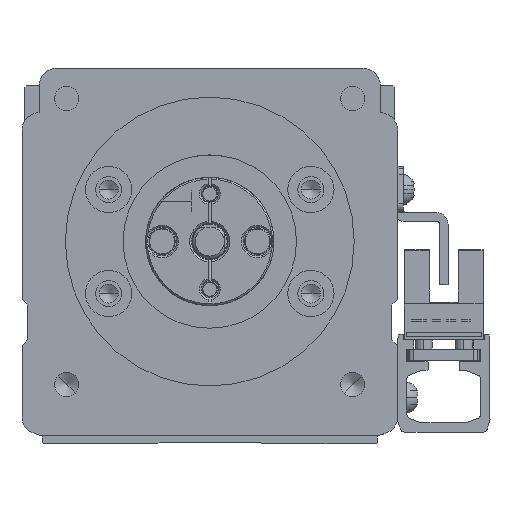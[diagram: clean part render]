
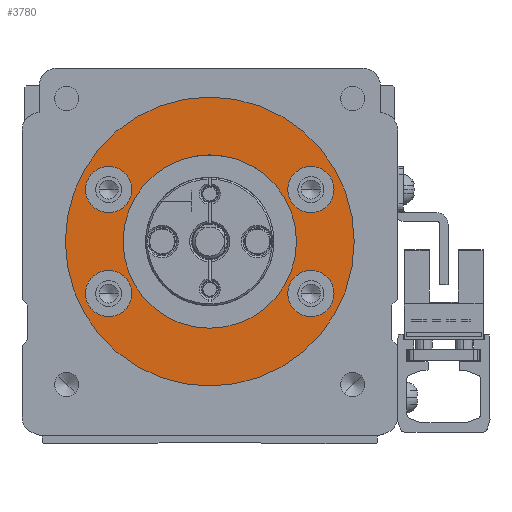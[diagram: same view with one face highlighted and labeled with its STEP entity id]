
A CAD part, front view. The second image highlights one B-rep face of the part: STEP entity #3780.
In plain terms, the highlighted planar face has unit normal (0, -1, 0).
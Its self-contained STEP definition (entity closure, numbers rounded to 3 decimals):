
#3780=ADVANCED_FACE('',(#9835,#9836,#9837,#9838,#9839,#9840),#9841,.F.);
#9835=FACE_BOUND('',#19129,.T.);
#9836=FACE_BOUND('',#19130,.T.);
#9837=FACE_BOUND('',#19131,.T.);
#9838=FACE_BOUND('',#19132,.T.);
#9839=FACE_BOUND('',#19133,.T.);
#9840=FACE_OUTER_BOUND('',#19134,.T.);
#9841=PLANE('',#19135);
#19129=EDGE_LOOP('',(#29258,#29259));
#19130=EDGE_LOOP('',(#29260,#29261));
#19131=EDGE_LOOP('',(#29262,#29263));
#19132=EDGE_LOOP('',(#29264,#29265));
#19133=EDGE_LOOP('',(#29266,#29267));
#19134=EDGE_LOOP('',(#29268,#29269));
#19135=AXIS2_PLACEMENT_3D('',#29270,#29271,#29272);
#29258=ORIENTED_EDGE('',*,*,#54795,.T.);
#29259=ORIENTED_EDGE('',*,*,#54796,.T.);
#29260=ORIENTED_EDGE('',*,*,#54797,.T.);
#29261=ORIENTED_EDGE('',*,*,#54798,.T.);
#29262=ORIENTED_EDGE('',*,*,#54799,.T.);
#29263=ORIENTED_EDGE('',*,*,#54800,.T.);
#29264=ORIENTED_EDGE('',*,*,#54801,.T.);
#29265=ORIENTED_EDGE('',*,*,#54802,.T.);
#29266=ORIENTED_EDGE('',*,*,#54803,.T.);
#29267=ORIENTED_EDGE('',*,*,#54804,.T.);
#29268=ORIENTED_EDGE('',*,*,#54805,.T.);
#29269=ORIENTED_EDGE('',*,*,#54806,.T.);
#29270=CARTESIAN_POINT('',(300.,115.0,0.));
#29271=DIRECTION('',(0.,1.0,0.));
#29272=DIRECTION('',(1.0,0.,0.));
#54795=EDGE_CURVE('',#65133,#65134,#65135,.T.);
#54796=EDGE_CURVE('',#65134,#65133,#65136,.T.);
#54797=EDGE_CURVE('',#65137,#65138,#65139,.T.);
#54798=EDGE_CURVE('',#65138,#65137,#65140,.T.);
#54799=EDGE_CURVE('',#65141,#65142,#65143,.T.);
#54800=EDGE_CURVE('',#65142,#65141,#65144,.T.);
#54801=EDGE_CURVE('',#65145,#65146,#65147,.T.);
#54802=EDGE_CURVE('',#65146,#65145,#65148,.T.);
#54803=EDGE_CURVE('',#65149,#65150,#65151,.T.);
#54804=EDGE_CURVE('',#65150,#65149,#65152,.T.);
#54805=EDGE_CURVE('',#65153,#65154,#65155,.T.);
#54806=EDGE_CURVE('',#65154,#65153,#65156,.T.);
#65133=VERTEX_POINT('',#80233);
#65134=VERTEX_POINT('',#80234);
#65135=CIRCLE('',#80235,4.0);
#65136=CIRCLE('',#80236,4.0);
#65137=VERTEX_POINT('',#80237);
#65138=VERTEX_POINT('',#80238);
#65139=CIRCLE('',#80239,4.0);
#65140=CIRCLE('',#80240,4.0);
#65141=VERTEX_POINT('',#80241);
#65142=VERTEX_POINT('',#80242);
#65143=CIRCLE('',#80243,4.0);
#65144=CIRCLE('',#80244,4.0);
#65145=VERTEX_POINT('',#80245);
#65146=VERTEX_POINT('',#80246);
#65147=CIRCLE('',#80247,4.0);
#65148=CIRCLE('',#80248,4.0);
#65149=VERTEX_POINT('',#80249);
#65150=VERTEX_POINT('',#80250);
#65151=CIRCLE('',#80251,15.0);
#65152=CIRCLE('',#80252,15.0);
#65153=VERTEX_POINT('',#80253);
#65154=VERTEX_POINT('',#80254);
#65155=CIRCLE('',#80255,25.0);
#65156=CIRCLE('',#80256,25.0);
#80233=CARTESIAN_POINT('',(286.5,115.0,-9.));
#80234=CARTESIAN_POINT('',(278.5,115.0,-9.));
#80235=AXIS2_PLACEMENT_3D('',#101034,#101035,#101036);
#80236=AXIS2_PLACEMENT_3D('',#101037,#101038,#101039);
#80237=CARTESIAN_POINT('',(321.5,115.0,-9.));
#80238=CARTESIAN_POINT('',(313.5,115.0,-9.));
#80239=AXIS2_PLACEMENT_3D('',#101040,#101041,#101042);
#80240=AXIS2_PLACEMENT_3D('',#101043,#101044,#101045);
#80241=CARTESIAN_POINT('',(286.5,115.0,9.));
#80242=CARTESIAN_POINT('',(278.5,115.0,9.));
#80243=AXIS2_PLACEMENT_3D('',#101046,#101047,#101048);
#80244=AXIS2_PLACEMENT_3D('',#101049,#101050,#101051);
#80245=CARTESIAN_POINT('',(321.5,115.0,9.));
#80246=CARTESIAN_POINT('',(313.5,115.0,9.));
#80247=AXIS2_PLACEMENT_3D('',#101052,#101053,#101054);
#80248=AXIS2_PLACEMENT_3D('',#101055,#101056,#101057);
#80249=CARTESIAN_POINT('',(285.,115.0,0.));
#80250=CARTESIAN_POINT('',(315.,115.0,0.));
#80251=AXIS2_PLACEMENT_3D('',#101058,#101059,#101060);
#80252=AXIS2_PLACEMENT_3D('',#101061,#101062,#101063);
#80253=CARTESIAN_POINT('',(325.,115.0,0.));
#80254=CARTESIAN_POINT('',(275.,115.0,0.));
#80255=AXIS2_PLACEMENT_3D('',#101064,#101065,#101066);
#80256=AXIS2_PLACEMENT_3D('',#101067,#101068,#101069);
#101034=CARTESIAN_POINT('',(282.5,115.0,-9.));
#101035=DIRECTION('',(0.,1.0,0.));
#101036=DIRECTION('',(-1.0,0.,0.));
#101037=CARTESIAN_POINT('',(282.5,115.0,-9.));
#101038=DIRECTION('',(0.,1.0,0.));
#101039=DIRECTION('',(-1.0,0.,0.));
#101040=CARTESIAN_POINT('',(317.5,115.0,-9.));
#101041=DIRECTION('',(0.,1.0,0.));
#101042=DIRECTION('',(-1.0,0.,0.));
#101043=CARTESIAN_POINT('',(317.5,115.0,-9.));
#101044=DIRECTION('',(0.,1.0,0.));
#101045=DIRECTION('',(-1.0,0.,0.));
#101046=CARTESIAN_POINT('',(282.5,115.0,9.));
#101047=DIRECTION('',(0.,1.0,0.));
#101048=DIRECTION('',(-1.0,0.,0.));
#101049=CARTESIAN_POINT('',(282.5,115.0,9.));
#101050=DIRECTION('',(0.,1.0,0.));
#101051=DIRECTION('',(-1.0,0.,0.));
#101052=CARTESIAN_POINT('',(317.5,115.0,9.));
#101053=DIRECTION('',(0.,1.0,0.));
#101054=DIRECTION('',(-1.0,0.,0.));
#101055=CARTESIAN_POINT('',(317.5,115.0,9.));
#101056=DIRECTION('',(0.,1.0,0.));
#101057=DIRECTION('',(-1.0,0.,0.));
#101058=CARTESIAN_POINT('',(300.,115.0,0.));
#101059=DIRECTION('',(0.,1.0,0.));
#101060=DIRECTION('',(1.0,0.,0.));
#101061=CARTESIAN_POINT('',(300.,115.0,0.));
#101062=DIRECTION('',(0.,1.0,0.));
#101063=DIRECTION('',(1.0,0.,0.));
#101064=CARTESIAN_POINT('',(300.,115.0,0.));
#101065=DIRECTION('',(0.,-1.0,0.));
#101066=DIRECTION('',(1.0,0.,0.));
#101067=CARTESIAN_POINT('',(300.,115.0,0.));
#101068=DIRECTION('',(0.,-1.0,0.));
#101069=DIRECTION('',(1.0,0.,0.));
